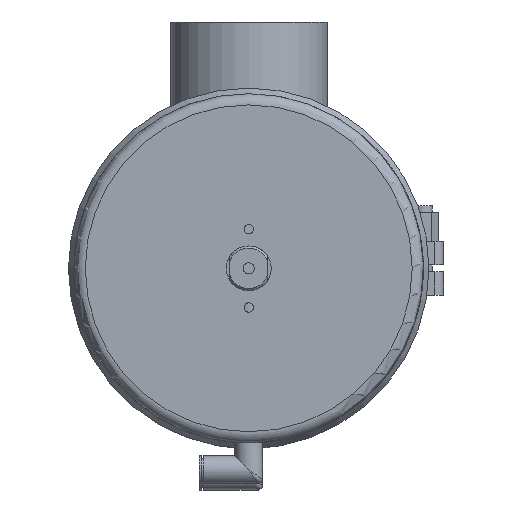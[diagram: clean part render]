
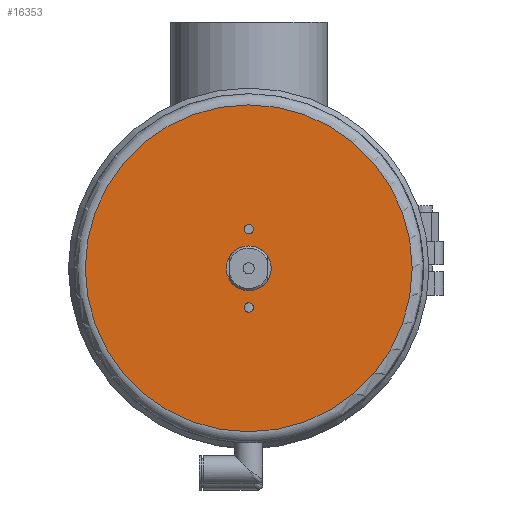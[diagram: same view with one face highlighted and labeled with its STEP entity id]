
A CAD part, front view. The second image highlights one B-rep face of the part: STEP entity #16353.
In plain terms, the highlighted planar face has unit normal (0, -1, 0) as drawn and (0, 1, 0) by its records, which use the part's own axes.
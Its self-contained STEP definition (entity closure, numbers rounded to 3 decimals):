
#319 = VERTEX_POINT ( 'NONE', #19695 ) ;
#1436 = ORIENTED_EDGE ( 'NONE', *, *, #13499, .F. ) ;
#1507 = EDGE_LOOP ( 'NONE', ( #1436 ) ) ;
#2687 = ORIENTED_EDGE ( 'NONE', *, *, #8729, .T. ) ;
#2816 = VERTEX_POINT ( 'NONE', #21968 ) ;
#3781 = DIRECTION ( 'NONE',  ( 0., 0., -1. ) ) ;
#4366 = AXIS2_PLACEMENT_3D ( 'NONE', #23284, #6146, #21431 ) ;
#4498 = DIRECTION ( 'NONE',  ( 0., 0., -1. ) ) ;
#5664 = PLANE ( 'NONE',  #10967 ) ;
#6146 = DIRECTION ( 'NONE',  ( 0., 1., 0. ) ) ;
#6199 = AXIS2_PLACEMENT_3D ( 'NONE', #11867, #21667, #4498 ) ;
#6550 = EDGE_LOOP ( 'NONE', ( #2687 ) ) ;
#7311 = CARTESIAN_POINT ( 'NONE',  ( 0., 263., -10. ) ) ;
#7585 = CARTESIAN_POINT ( 'NONE',  ( 0., 263., 17.5 ) ) ;
#7771 = DIRECTION ( 'NONE',  ( 0., 1., 0. ) ) ;
#7780 = FACE_OUTER_BOUND ( 'NONE', #9816, .T. ) ;
#8729 = EDGE_CURVE ( 'NONE', #22469, #22469, #11377, .T. ) ;
#9685 = CARTESIAN_POINT ( 'NONE',  ( 0., 263., -15.4 ) ) ;
#9762 = FACE_BOUND ( 'NONE', #6550, .T. ) ;
#9816 = EDGE_LOOP ( 'NONE', ( #10665 ) ) ;
#10665 = ORIENTED_EDGE ( 'NONE', *, *, #18185, .T. ) ;
#10964 = AXIS2_PLACEMENT_3D ( 'NONE', #17134, #7771, #15389 ) ;
#10967 = AXIS2_PLACEMENT_3D ( 'NONE', #11396, #13276, #3781 ) ;
#11377 = CIRCLE ( 'NONE', #6199, 10. ) ;
#11396 = CARTESIAN_POINT ( 'NONE',  ( -78., 263., 0. ) ) ;
#11867 = CARTESIAN_POINT ( 'NONE',  ( 0., 263., 0. ) ) ;
#11939 = EDGE_LOOP ( 'NONE', ( #14285 ) ) ;
#13065 = DIRECTION ( 'NONE',  ( 0., 0., 1. ) ) ;
#13276 = DIRECTION ( 'NONE',  ( 0., -1., 0. ) ) ;
#13499 = EDGE_CURVE ( 'NONE', #23322, #23322, #21570, .T. ) ;
#14285 = ORIENTED_EDGE ( 'NONE', *, *, #18804, .F. ) ;
#15389 = DIRECTION ( 'NONE',  ( 0., 0., -1. ) ) ;
#16353 = ADVANCED_FACE ( 'NONE', ( #20678, #22802, #7780, #9762 ), #5664, .F. ) ;
#17134 = CARTESIAN_POINT ( 'NONE',  ( 0., 263., 0. ) ) ;
#17392 = CIRCLE ( 'NONE', #19400, 2.1 ) ;
#18185 = EDGE_CURVE ( 'NONE', #319, #319, #18986, .T. ) ;
#18804 = EDGE_CURVE ( 'NONE', #2816, #2816, #17392, .T. ) ;
#18986 = CIRCLE ( 'NONE', #10964, 73. ) ;
#19089 = DIRECTION ( 'NONE',  ( 0., 1., 0. ) ) ;
#19400 = AXIS2_PLACEMENT_3D ( 'NONE', #7585, #19089, #13065 ) ;
#19695 = CARTESIAN_POINT ( 'NONE',  ( 0., 263., -73. ) ) ;
#20678 = FACE_BOUND ( 'NONE', #1507, .T. ) ;
#21431 = DIRECTION ( 'NONE',  ( 0., 0., 1. ) ) ;
#21570 = CIRCLE ( 'NONE', #4366, 2.1 ) ;
#21667 = DIRECTION ( 'NONE',  ( 0., -1., 0. ) ) ;
#21968 = CARTESIAN_POINT ( 'NONE',  ( 0., 263., 19.6 ) ) ;
#22469 = VERTEX_POINT ( 'NONE', #7311 ) ;
#22802 = FACE_BOUND ( 'NONE', #11939, .T. ) ;
#23284 = CARTESIAN_POINT ( 'NONE',  ( 0., 263., -17.5 ) ) ;
#23322 = VERTEX_POINT ( 'NONE', #9685 ) ;
